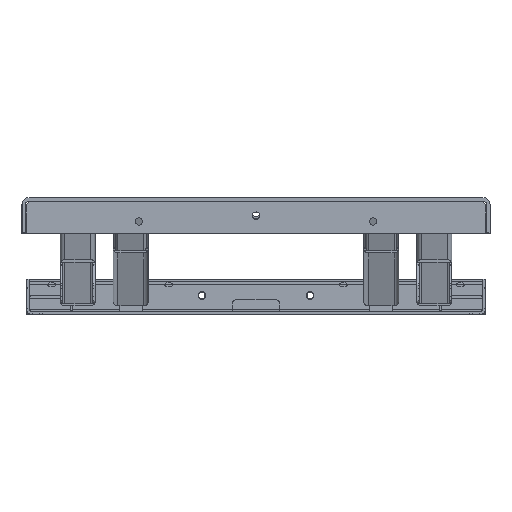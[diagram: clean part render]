
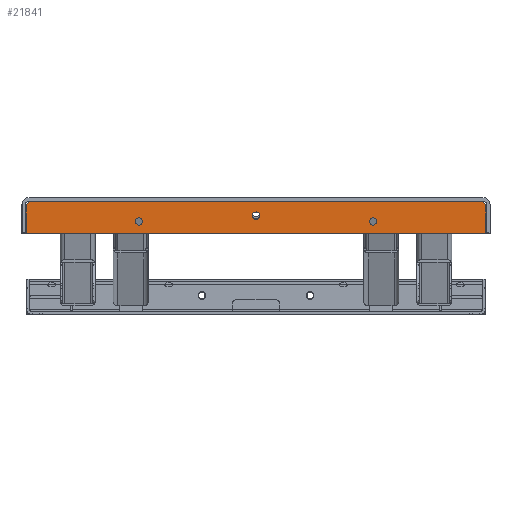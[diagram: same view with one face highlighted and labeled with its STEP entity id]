
A CAD part, front view. The second image highlights one B-rep face of the part: STEP entity #21841.
In plain terms, the highlighted planar face has unit normal (0, -1, 0) as drawn and (0, 0, 1) by its records, which use the part's own axes.
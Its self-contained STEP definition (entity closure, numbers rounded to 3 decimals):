
#727=FACE_BOUND('',#4662,.T.);
#728=FACE_BOUND('',#4663,.T.);
#729=FACE_BOUND('',#4664,.T.);
#1593=CIRCLE('',#24000,1.);
#1603=CIRCLE('',#24013,1.);
#1604=CIRCLE('',#24015,1.);
#1605=CIRCLE('',#24018,1.);
#1606=CIRCLE('',#24019,1.);
#1607=CIRCLE('',#24020,1.);
#1608=CIRCLE('',#24021,6.25);
#1609=CIRCLE('',#24022,6.25);
#1610=CIRCLE('',#24023,6.25);
#3193=FACE_OUTER_BOUND('',#4661,.T.);
#4661=EDGE_LOOP('',(#19589,#19590,#19591,#19592,#19593,#19594,#19595,#19596,
#19597,#19598,#19599,#19600));
#4662=EDGE_LOOP('',(#19601));
#4663=EDGE_LOOP('',(#19602));
#4664=EDGE_LOOP('',(#19603));
#6706=LINE('',#36972,#8764);
#6711=LINE('',#36986,#8769);
#6713=LINE('',#36990,#8771);
#6714=LINE('',#36994,#8772);
#6715=LINE('',#36998,#8773);
#6716=LINE('',#37000,#8774);
#8764=VECTOR('',#29905,10.);
#8769=VECTOR('',#29920,10.);
#8771=VECTOR('',#29924,10.);
#8772=VECTOR('',#29927,10.);
#8773=VECTOR('',#29930,10.);
#8774=VECTOR('',#29933,10.);
#10784=VERTEX_POINT('',#36934);
#10785=VERTEX_POINT('',#36935);
#10801=VERTEX_POINT('',#36971);
#10802=VERTEX_POINT('',#36975);
#10803=VERTEX_POINT('',#36979);
#10804=VERTEX_POINT('',#36981);
#10805=VERTEX_POINT('',#36985);
#10806=VERTEX_POINT('',#36989);
#10807=VERTEX_POINT('',#36991);
#10808=VERTEX_POINT('',#36993);
#10809=VERTEX_POINT('',#36995);
#10810=VERTEX_POINT('',#36997);
#10811=VERTEX_POINT('',#37001);
#10812=VERTEX_POINT('',#37003);
#10813=VERTEX_POINT('',#37005);
#13745=EDGE_CURVE('',#10784,#10785,#1593,.T.);
#13763=EDGE_CURVE('',#10785,#10801,#6706,.T.);
#13765=EDGE_CURVE('',#10801,#10802,#1603,.T.);
#13768=EDGE_CURVE('',#10803,#10804,#1604,.T.);
#13770=EDGE_CURVE('',#10805,#10804,#6711,.T.);
#13772=EDGE_CURVE('',#10806,#10784,#6713,.T.);
#13773=EDGE_CURVE('',#10807,#10806,#1605,.T.);
#13774=EDGE_CURVE('',#10807,#10808,#6714,.T.);
#13775=EDGE_CURVE('',#10809,#10808,#1606,.T.);
#13776=EDGE_CURVE('',#10809,#10810,#6715,.T.);
#13777=EDGE_CURVE('',#10805,#10810,#1607,.T.);
#13778=EDGE_CURVE('',#10802,#10803,#6716,.T.);
#13779=EDGE_CURVE('',#10811,#10811,#1608,.T.);
#13780=EDGE_CURVE('',#10812,#10812,#1609,.T.);
#13781=EDGE_CURVE('',#10813,#10813,#1610,.T.);
#19589=ORIENTED_EDGE('',*,*,#13745,.F.);
#19590=ORIENTED_EDGE('',*,*,#13772,.F.);
#19591=ORIENTED_EDGE('',*,*,#13773,.F.);
#19592=ORIENTED_EDGE('',*,*,#13774,.T.);
#19593=ORIENTED_EDGE('',*,*,#13775,.F.);
#19594=ORIENTED_EDGE('',*,*,#13776,.T.);
#19595=ORIENTED_EDGE('',*,*,#13777,.F.);
#19596=ORIENTED_EDGE('',*,*,#13770,.T.);
#19597=ORIENTED_EDGE('',*,*,#13768,.F.);
#19598=ORIENTED_EDGE('',*,*,#13778,.F.);
#19599=ORIENTED_EDGE('',*,*,#13765,.F.);
#19600=ORIENTED_EDGE('',*,*,#13763,.F.);
#19601=ORIENTED_EDGE('',*,*,#13779,.T.);
#19602=ORIENTED_EDGE('',*,*,#13780,.T.);
#19603=ORIENTED_EDGE('',*,*,#13781,.F.);
#20765=PLANE('',#24017);
#21841=ADVANCED_FACE('',(#3193,#727,#728,#729),#20765,.T.);
#24000=AXIS2_PLACEMENT_3D('',#36936,#29873,#29874);
#24013=AXIS2_PLACEMENT_3D('',#36976,#29909,#29910);
#24015=AXIS2_PLACEMENT_3D('',#36982,#29915,#29916);
#24017=AXIS2_PLACEMENT_3D('',#36988,#29922,#29923);
#24018=AXIS2_PLACEMENT_3D('',#36992,#29925,#29926);
#24019=AXIS2_PLACEMENT_3D('',#36996,#29928,#29929);
#24020=AXIS2_PLACEMENT_3D('',#36999,#29931,#29932);
#24021=AXIS2_PLACEMENT_3D('',#37002,#29934,#29935);
#24022=AXIS2_PLACEMENT_3D('',#37004,#29936,#29937);
#24023=AXIS2_PLACEMENT_3D('',#37006,#29938,#29939);
#29873=DIRECTION('center_axis',(0.,0.,-1.));
#29874=DIRECTION('ref_axis',(0.707,0.707,0.));
#29905=DIRECTION('',(0.,-1.,0.));
#29909=DIRECTION('center_axis',(0.,0.,-1.));
#29910=DIRECTION('ref_axis',(0.924,-0.383,0.));
#29915=DIRECTION('center_axis',(0.,0.,-1.));
#29916=DIRECTION('ref_axis',(0.383,-0.924,0.));
#29920=DIRECTION('',(1.,0.,0.));
#29922=DIRECTION('center_axis',(0.,0.,1.));
#29923=DIRECTION('ref_axis',(1.,0.,0.));
#29924=DIRECTION('',(1.,0.,0.));
#29925=DIRECTION('center_axis',(0.,0.,-1.));
#29926=DIRECTION('ref_axis',(-0.707,0.707,0.));
#29927=DIRECTION('',(0.,-1.,0.));
#29928=DIRECTION('center_axis',(0.,0.,-1.));
#29929=DIRECTION('ref_axis',(-0.924,-0.383,0.));
#29930=DIRECTION('',(0.707,-0.707,0.));
#29931=DIRECTION('center_axis',(0.,0.,-1.));
#29932=DIRECTION('ref_axis',(-0.383,-0.924,0.));
#29933=DIRECTION('',(-0.707,-0.707,0.));
#29934=DIRECTION('center_axis',(0.,0.,-1.));
#29935=DIRECTION('ref_axis',(1.,0.,0.));
#29936=DIRECTION('center_axis',(0.,0.,-1.));
#29937=DIRECTION('ref_axis',(1.,0.,0.));
#29938=DIRECTION('center_axis',(0.,0.,1.));
#29939=DIRECTION('ref_axis',(-1.,0.,0.));
#36934=CARTESIAN_POINT('',(392.,27.5,6.));
#36935=CARTESIAN_POINT('',(393.,26.5,6.));
#36936=CARTESIAN_POINT('Origin',(392.,26.5,6.));
#36971=CARTESIAN_POINT('',(393.,-21.086,6.));
#36972=CARTESIAN_POINT('',(393.,27.5,6.));
#36975=CARTESIAN_POINT('',(392.707,-21.793,6.));
#36976=CARTESIAN_POINT('Origin',(392.,-21.086,6.));
#36979=CARTESIAN_POINT('',(387.293,-27.207,6.));
#36981=CARTESIAN_POINT('',(386.586,-27.5,6.));
#36982=CARTESIAN_POINT('Origin',(386.586,-26.5,6.));
#36985=CARTESIAN_POINT('',(-386.586,-27.5,6.));
#36986=CARTESIAN_POINT('',(-393.,-27.5,6.));
#36988=CARTESIAN_POINT('Origin',(196.5,0.,6.));
#36989=CARTESIAN_POINT('',(-392.,27.5,6.));
#36990=CARTESIAN_POINT('',(0.,27.5,6.));
#36991=CARTESIAN_POINT('',(-393.,26.5,6.));
#36992=CARTESIAN_POINT('Origin',(-392.,26.5,6.));
#36993=CARTESIAN_POINT('',(-393.,-21.086,6.));
#36994=CARTESIAN_POINT('',(-393.,27.5,6.));
#36995=CARTESIAN_POINT('',(-392.707,-21.793,6.));
#36996=CARTESIAN_POINT('Origin',(-392.,-21.086,6.));
#36997=CARTESIAN_POINT('',(-387.293,-27.207,6.));
#36998=CARTESIAN_POINT('',(-347.75,-66.75,6.));
#36999=CARTESIAN_POINT('Origin',(-386.586,-26.5,6.));
#37000=CARTESIAN_POINT('',(347.75,-66.75,6.));
#37001=CARTESIAN_POINT('',(206.25,7.5,6.));
#37002=CARTESIAN_POINT('Origin',(200.,7.5,6.));
#37003=CARTESIAN_POINT('',(0.,-8.75,6.));
#37004=CARTESIAN_POINT('Origin',(0.,-2.5,6.));
#37005=CARTESIAN_POINT('',(-206.25,7.5,6.));
#37006=CARTESIAN_POINT('Origin',(-200.,7.5,6.));
